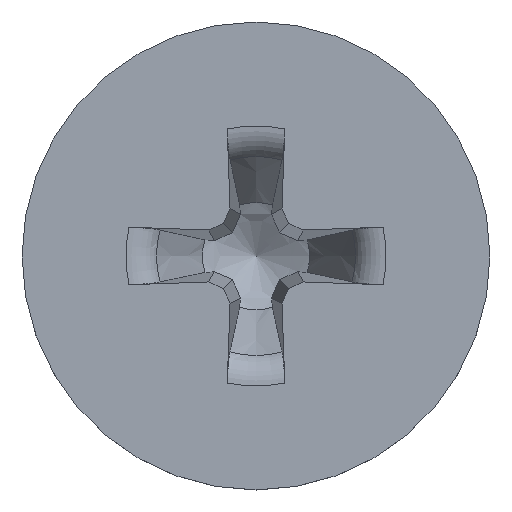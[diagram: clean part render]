
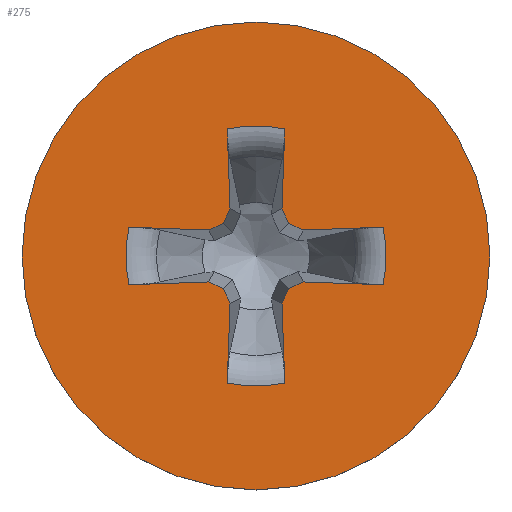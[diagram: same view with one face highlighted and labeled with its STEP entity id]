
A CAD part, top view. The second image highlights one B-rep face of the part: STEP entity #275.
In plain terms, the highlighted planar face has unit normal (0, 0, 1).
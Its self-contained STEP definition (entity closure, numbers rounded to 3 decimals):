
#84=LINE('',#2816,#156);
#85=LINE('',#2821,#157);
#86=LINE('',#2823,#158);
#87=LINE('',#2825,#159);
#88=LINE('',#2827,#160);
#89=LINE('',#2831,#161);
#90=LINE('',#2833,#162);
#91=LINE('',#2835,#163);
#92=LINE('',#2837,#164);
#93=LINE('',#2841,#165);
#94=LINE('',#2843,#166);
#95=LINE('',#2845,#167);
#96=LINE('',#2847,#168);
#97=LINE('',#2851,#169);
#98=LINE('',#2853,#170);
#99=LINE('',#2855,#171);
#156=VECTOR('',#1454,1.);
#157=VECTOR('',#1457,1.);
#158=VECTOR('',#1458,1.);
#159=VECTOR('',#1459,1.);
#160=VECTOR('',#1460,1.);
#161=VECTOR('',#1463,1.);
#162=VECTOR('',#1464,1.);
#163=VECTOR('',#1465,1.);
#164=VECTOR('',#1466,1.);
#165=VECTOR('',#1469,1.);
#166=VECTOR('',#1470,1.);
#167=VECTOR('',#1471,1.);
#168=VECTOR('',#1472,1.);
#169=VECTOR('',#1475,1.);
#170=VECTOR('',#1476,1.);
#171=VECTOR('',#1477,1.);
#229=PLANE('',#1389);
#256=FACE_BOUND('',#446,.T.);
#257=FACE_BOUND('',#447,.T.);
#275=ADVANCED_FACE('',(#256,#257),#229,.F.);
#446=EDGE_LOOP('',(#678,#679,#680,#681,#682,#683,#684,#685,#686,#687,#688,
#689,#690,#691,#692,#693,#694,#695,#696,#697));
#447=EDGE_LOOP('',(#698));
#678=ORIENTED_EDGE('',*,*,#1192,.F.);
#679=ORIENTED_EDGE('',*,*,#1193,.T.);
#680=ORIENTED_EDGE('',*,*,#1194,.F.);
#681=ORIENTED_EDGE('',*,*,#1195,.F.);
#682=ORIENTED_EDGE('',*,*,#1196,.F.);
#683=ORIENTED_EDGE('',*,*,#1197,.F.);
#684=ORIENTED_EDGE('',*,*,#1198,.T.);
#685=ORIENTED_EDGE('',*,*,#1199,.F.);
#686=ORIENTED_EDGE('',*,*,#1200,.F.);
#687=ORIENTED_EDGE('',*,*,#1201,.F.);
#688=ORIENTED_EDGE('',*,*,#1202,.F.);
#689=ORIENTED_EDGE('',*,*,#1203,.T.);
#690=ORIENTED_EDGE('',*,*,#1204,.F.);
#691=ORIENTED_EDGE('',*,*,#1205,.F.);
#692=ORIENTED_EDGE('',*,*,#1206,.F.);
#693=ORIENTED_EDGE('',*,*,#1207,.F.);
#694=ORIENTED_EDGE('',*,*,#1208,.T.);
#695=ORIENTED_EDGE('',*,*,#1209,.F.);
#696=ORIENTED_EDGE('',*,*,#1210,.F.);
#697=ORIENTED_EDGE('',*,*,#1211,.F.);
#698=ORIENTED_EDGE('',*,*,#1212,.F.);
#1065=VERTEX_POINT('',#2817);
#1066=VERTEX_POINT('',#2818);
#1067=VERTEX_POINT('',#2820);
#1068=VERTEX_POINT('',#2822);
#1069=VERTEX_POINT('',#2824);
#1070=VERTEX_POINT('',#2826);
#1071=VERTEX_POINT('',#2828);
#1072=VERTEX_POINT('',#2830);
#1073=VERTEX_POINT('',#2832);
#1074=VERTEX_POINT('',#2834);
#1075=VERTEX_POINT('',#2836);
#1076=VERTEX_POINT('',#2838);
#1077=VERTEX_POINT('',#2840);
#1078=VERTEX_POINT('',#2842);
#1079=VERTEX_POINT('',#2844);
#1080=VERTEX_POINT('',#2846);
#1081=VERTEX_POINT('',#2848);
#1082=VERTEX_POINT('',#2850);
#1083=VERTEX_POINT('',#2852);
#1084=VERTEX_POINT('',#2854);
#1085=VERTEX_POINT('',#2857);
#1192=EDGE_CURVE('',#1065,#1066,#84,.T.);
#1193=EDGE_CURVE('',#1065,#1067,#1356,.T.);
#1194=EDGE_CURVE('',#1068,#1067,#85,.T.);
#1195=EDGE_CURVE('',#1069,#1068,#86,.T.);
#1196=EDGE_CURVE('',#1070,#1069,#87,.T.);
#1197=EDGE_CURVE('',#1071,#1070,#88,.T.);
#1198=EDGE_CURVE('',#1071,#1072,#1357,.T.);
#1199=EDGE_CURVE('',#1073,#1072,#89,.T.);
#1200=EDGE_CURVE('',#1074,#1073,#90,.T.);
#1201=EDGE_CURVE('',#1075,#1074,#91,.T.);
#1202=EDGE_CURVE('',#1076,#1075,#92,.T.);
#1203=EDGE_CURVE('',#1076,#1077,#1358,.T.);
#1204=EDGE_CURVE('',#1078,#1077,#93,.T.);
#1205=EDGE_CURVE('',#1079,#1078,#94,.T.);
#1206=EDGE_CURVE('',#1080,#1079,#95,.T.);
#1207=EDGE_CURVE('',#1081,#1080,#96,.T.);
#1208=EDGE_CURVE('',#1081,#1082,#1359,.T.);
#1209=EDGE_CURVE('',#1083,#1082,#97,.T.);
#1210=EDGE_CURVE('',#1084,#1083,#98,.T.);
#1211=EDGE_CURVE('',#1066,#1084,#99,.T.);
#1212=EDGE_CURVE('',#1085,#1085,#1360,.T.);
#1356=CIRCLE('',#1384,2.784);
#1357=CIRCLE('',#1385,2.784);
#1358=CIRCLE('',#1386,2.784);
#1359=CIRCLE('',#1387,2.784);
#1360=CIRCLE('',#1388,5.);
#1384=AXIS2_PLACEMENT_3D('',#2819,#1455,#1456);
#1385=AXIS2_PLACEMENT_3D('',#2829,#1461,#1462);
#1386=AXIS2_PLACEMENT_3D('',#2839,#1467,#1468);
#1387=AXIS2_PLACEMENT_3D('',#2849,#1473,#1474);
#1388=AXIS2_PLACEMENT_3D('',#2856,#1478,#1479);
#1389=AXIS2_PLACEMENT_3D('',#2858,#1480,#1481);
#1454=DIRECTION('',(-0.999,-0.035,0.));
#1455=DIRECTION('',(0.,0.,-1.));
#1456=DIRECTION('',(-1.,0.,0.));
#1457=DIRECTION('',(0.999,-0.035,0.));
#1458=DIRECTION('',(0.906,0.423,0.));
#1459=DIRECTION('',(0.423,0.906,0.));
#1460=DIRECTION('',(-0.035,0.999,0.));
#1461=DIRECTION('',(0.,0.,-1.));
#1462=DIRECTION('',(-1.,0.,0.));
#1463=DIRECTION('',(-0.035,-0.999,0.));
#1464=DIRECTION('',(0.423,-0.906,0.));
#1465=DIRECTION('',(0.906,-0.423,0.));
#1466=DIRECTION('',(0.999,0.035,0.));
#1467=DIRECTION('',(0.,0.,-1.));
#1468=DIRECTION('',(-1.,0.,0.));
#1469=DIRECTION('',(-0.999,0.035,0.));
#1470=DIRECTION('',(-0.906,-0.423,0.));
#1471=DIRECTION('',(-0.423,-0.906,0.));
#1472=DIRECTION('',(0.035,-0.999,0.));
#1473=DIRECTION('',(0.,0.,-1.));
#1474=DIRECTION('',(-1.,0.,0.));
#1475=DIRECTION('',(0.035,0.999,0.));
#1476=DIRECTION('',(-0.423,0.906,0.));
#1477=DIRECTION('',(-0.906,0.423,0.));
#1478=DIRECTION('',(0.,0.,-1.));
#1479=DIRECTION('',(-1.,0.,0.));
#1480=DIRECTION('',(0.,0.,-1.));
#1481=DIRECTION('',(-1.,0.,0.));
#2816=CARTESIAN_POINT('',(-0.018,0.519,3.79));
#2817=CARTESIAN_POINT('',(2.715,0.615,3.79));
#2818=CARTESIAN_POINT('',(1.01,0.555,3.79));
#2819=CARTESIAN_POINT('',(0.,0.,3.79));
#2820=CARTESIAN_POINT('',(2.715,-0.615,3.79));
#2821=CARTESIAN_POINT('',(-0.018,-0.519,3.79));
#2822=CARTESIAN_POINT('',(1.01,-0.555,3.79));
#2823=CARTESIAN_POINT('',(0.393,-0.843,3.79));
#2824=CARTESIAN_POINT('',(0.7,-0.7,3.79));
#2825=CARTESIAN_POINT('',(0.843,-0.393,3.79));
#2826=CARTESIAN_POINT('',(0.555,-1.01,3.79));
#2827=CARTESIAN_POINT('',(0.519,0.018,3.79));
#2828=CARTESIAN_POINT('',(0.615,-2.715,3.79));
#2829=CARTESIAN_POINT('',(0.,0.,3.79));
#2830=CARTESIAN_POINT('',(-0.615,-2.715,3.79));
#2831=CARTESIAN_POINT('',(-0.519,0.018,3.79));
#2832=CARTESIAN_POINT('',(-0.555,-1.01,3.79));
#2833=CARTESIAN_POINT('',(-0.843,-0.393,3.79));
#2834=CARTESIAN_POINT('',(-0.7,-0.7,3.79));
#2835=CARTESIAN_POINT('',(-0.393,-0.843,3.79));
#2836=CARTESIAN_POINT('',(-1.01,-0.555,3.79));
#2837=CARTESIAN_POINT('',(0.018,-0.519,3.79));
#2838=CARTESIAN_POINT('',(-2.715,-0.615,3.79));
#2839=CARTESIAN_POINT('',(0.,0.,3.79));
#2840=CARTESIAN_POINT('',(-2.715,0.615,3.79));
#2841=CARTESIAN_POINT('',(0.018,0.519,3.79));
#2842=CARTESIAN_POINT('',(-1.01,0.555,3.79));
#2843=CARTESIAN_POINT('',(-0.393,0.843,3.79));
#2844=CARTESIAN_POINT('',(-0.7,0.7,3.79));
#2845=CARTESIAN_POINT('',(-0.843,0.393,3.79));
#2846=CARTESIAN_POINT('',(-0.555,1.01,3.79));
#2847=CARTESIAN_POINT('',(-0.519,-0.018,3.79));
#2848=CARTESIAN_POINT('',(-0.615,2.715,3.79));
#2849=CARTESIAN_POINT('',(0.,0.,3.79));
#2850=CARTESIAN_POINT('',(0.615,2.715,3.79));
#2851=CARTESIAN_POINT('',(0.519,-0.018,3.79));
#2852=CARTESIAN_POINT('',(0.555,1.01,3.79));
#2853=CARTESIAN_POINT('',(0.843,0.393,3.79));
#2854=CARTESIAN_POINT('',(0.7,0.7,3.79));
#2855=CARTESIAN_POINT('',(0.393,0.843,3.79));
#2856=CARTESIAN_POINT('',(0.,0.,3.79));
#2857=CARTESIAN_POINT('',(-5.,0.,3.79));
#2858=CARTESIAN_POINT('',(0.,0.,3.79));
